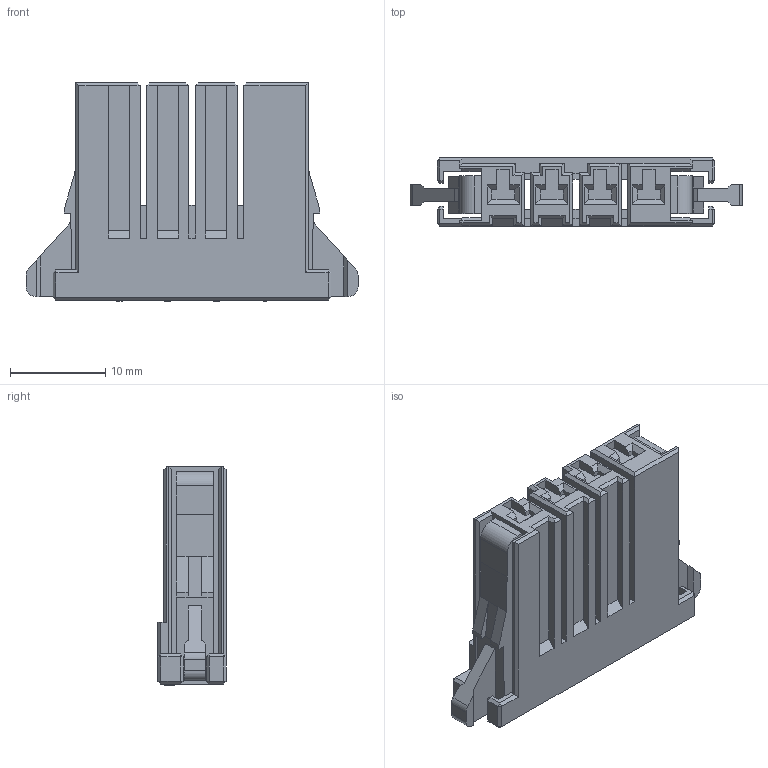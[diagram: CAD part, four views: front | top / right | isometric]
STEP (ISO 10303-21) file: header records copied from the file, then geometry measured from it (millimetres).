
FILE_DESCRIPTION (( 'STEP AP203' ), '1' );
FILE_NAME ('DK-3200S-04R.STEP', '2023-12-18T07:14:59', ( '' ), ( '' ), 'SwSTEP 2.0', 'SolidWorks 2018', '' );
FILE_SCHEMA (( 'CONFIG_CONTROL_DESIGN' ));
Length unit declared in the file: millimetre
Products named in the file (1): DK-3200S-04R
Bounding box: 34.78 x 7.15 x 22.9 mm (x, y, z)
Volume: 3285.5 mm3; surface area: 3249.2 mm2
Topology: 1 solids, 1 shells, 629 faces, 1676 edges, 1076 vertices
Faces by surface type: plane 508, bspline 112, cylinder 9
Full cylindrical faces by diameter (mm): 3 x1
Entity records: 22360 total; most frequent: CARTESIAN_POINT 7445, ORIENTED_EDGE 3350, DIRECTION 2505, EDGE_CURVE 1675, VECTOR 1433, LINE 1433, VERTEX_POINT 1076, EDGE_LOOP 663
